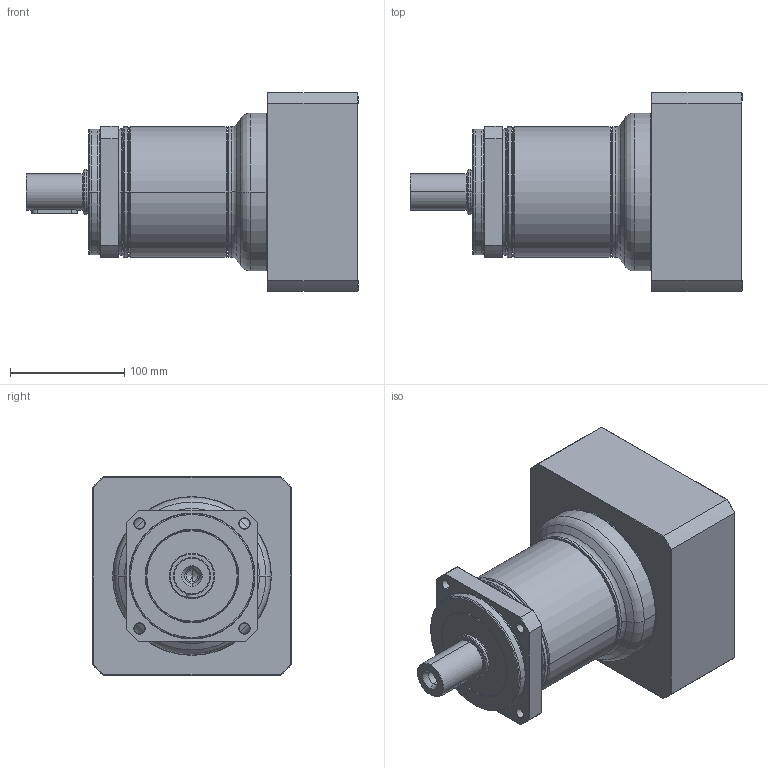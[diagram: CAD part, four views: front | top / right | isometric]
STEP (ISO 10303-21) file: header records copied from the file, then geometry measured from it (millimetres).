
FILE_DESCRIPTION((''),'2;1');
FILE_NAME('PA2-115_2ST_38-P0411900101_ASM','2016-05-11T',('d01943'),(''),'PRO/ENGINEER BY PARAMETRIC TECHNOLOGY CORPORATION, 2008410','PRO/ENGINEER BY PARAMETRIC TECHNOLOGY CORPORATION, 2008410','');
FILE_SCHEMA(('CONFIG_CONTROL_DESIGN'));
Length unit declared in the file: millimetre
Products named in the file (9): P1327410001; P0251400001; P1324400501; P0350400601; P0941405001; P0503900010; P0411900101; P1702600001; PA2-115_2ST_38-P0411900101_ASM
Assembly tree (8 placements, depth 2):
  PA2-115_2ST_38-P0411900101_ASM
    P1327410001
    P0251400001
    P1324400501
    P0350400601
    P0941405001
    P0503900010
    P0411900101
    P1702600001
Bounding box: 290.5 x 174 x 174 mm (x, y, z)
Volume: 3039042.9 mm3; surface area: 367851.7 mm2
Topology: 8 solids, 8 shells, 478 faces, 1042 edges, 600 vertices
Faces by surface type: cone 148, cylinder 135, torus 92, plane 87, bspline 16
Entity records: 17743 total; most frequent: CARTESIAN_POINT 7004, DIRECTION 2436, ORIENTED_EDGE 2044, AXIS2_PLACEMENT_3D 1040, EDGE_CURVE 1022, VERTEX_POINT 600, CIRCLE 561, EDGE_LOOP 542
